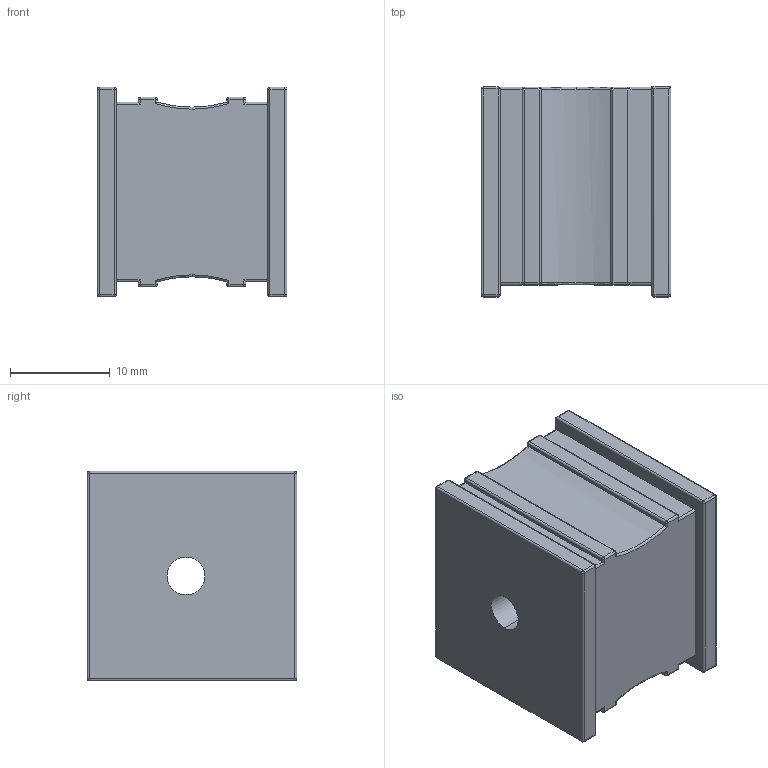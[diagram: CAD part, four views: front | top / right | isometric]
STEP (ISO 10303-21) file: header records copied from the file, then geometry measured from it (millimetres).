
FILE_DESCRIPTION (( 'STEP AP203' ), '1' );
FILE_NAME ('041204 KT4.STEP', '2023-03-07T03:12:34', ( '' ), ( '' ), 'SwSTEP 2.0', 'SolidWorks 2016', '' );
FILE_SCHEMA (( 'CONFIG_CONTROL_DESIGN' ));
Length unit declared in the file: millimetre
Products named in the file (1): 041204 KT4
Bounding box: 19 x 21 x 21 mm (x, y, z)
Volume: 6845.9 mm3; surface area: 2769.9 mm2
Topology: 1 solids, 1 shells, 157 faces, 376 edges, 193 vertices
Faces by surface type: cylinder 71, plane 33, bspline 28, sphere 17, torus 8
Entity records: 5186 total; most frequent: CARTESIAN_POINT 1869, ORIENTED_EDGE 690, DIRECTION 638, EDGE_CURVE 345, AXIS2_PLACEMENT_3D 237, VERTEX_POINT 193, VECTOR 164, LINE 164
